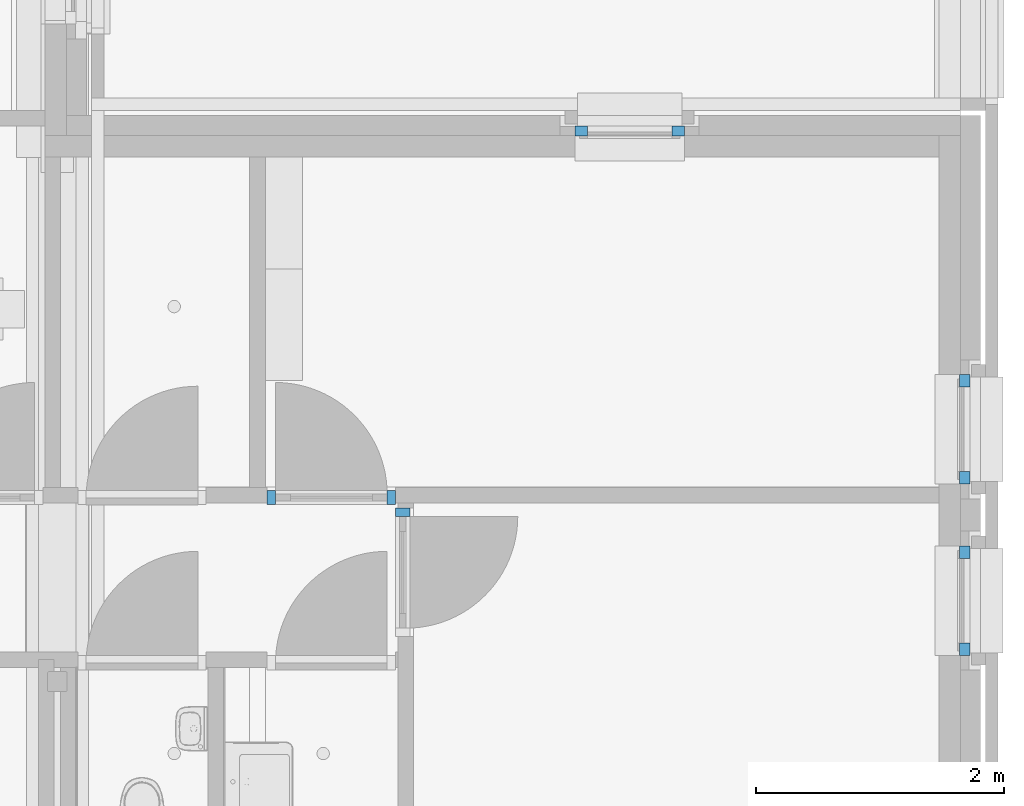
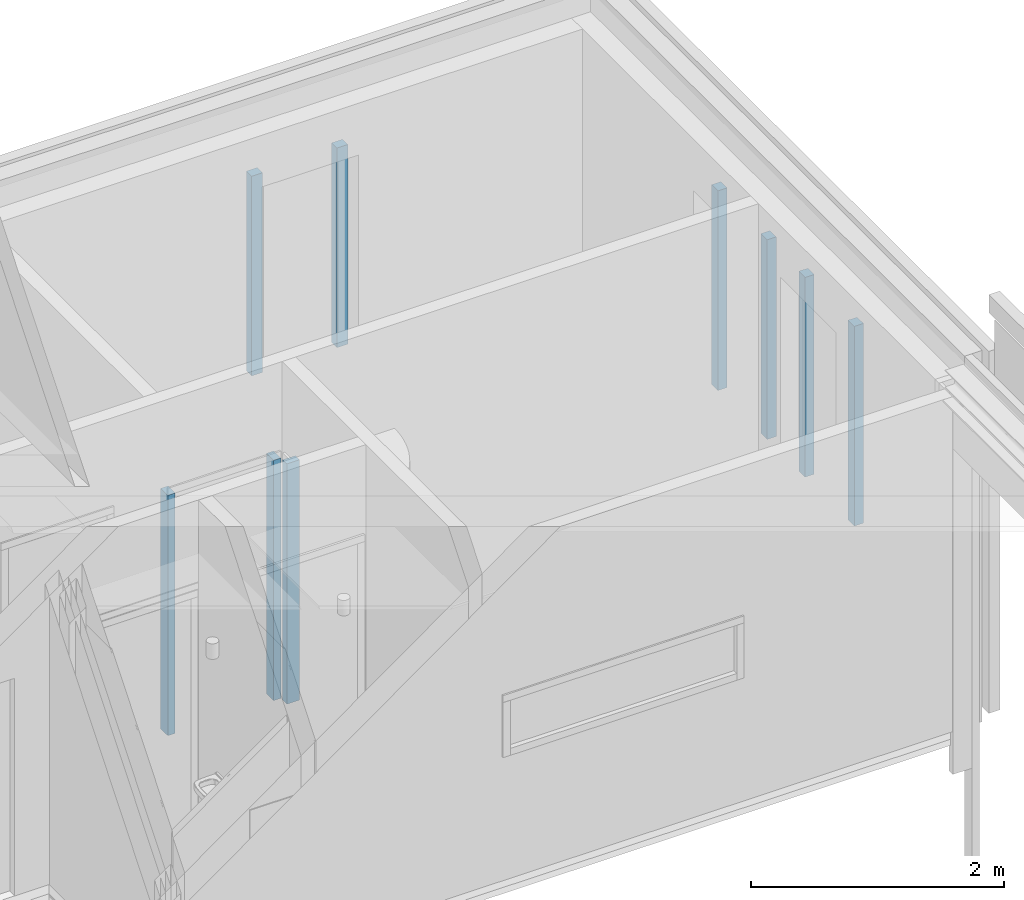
# One storey, part 23 of 128: 9 members, 5 elements without a shape of their own.
"""IFC2X3 building model written with IfcOpenShell, lengths in millimetres."""

from ifc_helpers import new_model, entity, si_unit, converted_unit, derived_unit, direction, frame, origin, origin_2d_with_axis, place, context, subcontext, project, spatial, rectangle, extrude, source, transform, mapped, material, type_object, type_shapes, element, aggregate, save


model = new_model("IFC2X3")

# Units and contexts
model_context = context("Model", 3, precision=0.01, world=origin(), true_north=direction((6.123031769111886e-17, 1.0)))
body_context = subcontext(model_context, "Body", "Model", "MODEL_VIEW")
ifc_project = project(units=[si_unit("LENGTHUNIT", "METRE", prefix="MILLI"), si_unit("AREAUNIT", "SQUARE_METRE"), si_unit("VOLUMEUNIT", "CUBIC_METRE"), converted_unit("PLANEANGLEUNIT", "DEGREE", entity("IfcRatioMeasure", 0.017453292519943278), si_unit("PLANEANGLEUNIT", "RADIAN"), dimensions=[0, 0, 0, 0, 0, 0, 0]), si_unit("MASSUNIT", "GRAM", prefix="KILO"), derived_unit("MASSDENSITYUNIT", [(si_unit("MASSUNIT", "GRAM", prefix="KILO"), 1), (si_unit("LENGTHUNIT", "METRE"), -3)]), derived_unit("IONCONCENTRATIONUNIT", [(si_unit("MASSUNIT", "GRAM", prefix="KILO"), 1), (si_unit("LENGTHUNIT", "METRE"), -3)]), derived_unit("MOMENTOFINERTIAUNIT", [(si_unit("LENGTHUNIT", "METRE"), 4)]), si_unit("TIMEUNIT", "SECOND"), si_unit("FREQUENCYUNIT", "HERTZ"), si_unit("THERMODYNAMICTEMPERATUREUNIT", "DEGREE_CELSIUS"), derived_unit("THERMALTRANSMITTANCEUNIT", [(si_unit("MASSUNIT", "GRAM", prefix="KILO"), 1), (si_unit("THERMODYNAMICTEMPERATUREUNIT", "KELVIN"), -1), (si_unit("TIMEUNIT", "SECOND"), -3)]), derived_unit("THERMALCONDUCTANCEUNIT", [(si_unit("MASSUNIT", "GRAM", prefix="KILO"), 1), (si_unit("THERMODYNAMICTEMPERATUREUNIT", "KELVIN"), -1), (si_unit("TIMEUNIT", "SECOND"), -3), (si_unit("LENGTHUNIT", "METRE"), 1)]), derived_unit("VOLUMETRICFLOWRATEUNIT", [(si_unit("LENGTHUNIT", "METRE"), 3), (si_unit("TIMEUNIT", "SECOND"), -1)]), derived_unit("MASSFLOWRATEUNIT", [(si_unit("MASSUNIT", "GRAM", prefix="KILO"), 1), (si_unit("TIMEUNIT", "SECOND"), -1)]), derived_unit("ROTATIONALFREQUENCYUNIT", [(si_unit("TIMEUNIT", "SECOND"), -1)]), si_unit("ELECTRICCURRENTUNIT", "AMPERE"), si_unit("ELECTRICVOLTAGEUNIT", "VOLT"), si_unit("POWERUNIT", "WATT"), si_unit("FORCEUNIT", "NEWTON", prefix="KILO"), si_unit("ILLUMINANCEUNIT", "LUX"), si_unit("LUMINOUSFLUXUNIT", "LUMEN"), si_unit("LUMINOUSINTENSITYUNIT", "CANDELA"), derived_unit("USERDEFINED", [(si_unit("MASSUNIT", "GRAM", prefix="KILO"), -1), (si_unit("LENGTHUNIT", "METRE"), -2), (si_unit("TIMEUNIT", "SECOND"), 3), (si_unit("LUMINOUSFLUXUNIT", "LUMEN"), 1)]), derived_unit("USERDEFINED", [(si_unit("MASSUNIT", "GRAM", prefix="KILO"), 1), (si_unit("TIMEUNIT", "SECOND"), -3), (si_unit("LENGTHUNIT", "METRE"), 3), (si_unit("ELECTRICCURRENTUNIT", "AMPERE"), -2)]), derived_unit("SOUNDPOWERUNIT", [(si_unit("MASSUNIT", "GRAM", prefix="KILO"), 1), (si_unit("TIMEUNIT", "SECOND"), -3), (si_unit("LENGTHUNIT", "METRE"), 2)]), derived_unit("SOUNDPRESSUREUNIT", [(si_unit("MASSUNIT", "GRAM", prefix="KILO"), 1), (si_unit("LENGTHUNIT", "METRE"), -1), (si_unit("TIMEUNIT", "SECOND"), -2)]), derived_unit("LINEARVELOCITYUNIT", [(si_unit("LENGTHUNIT", "METRE"), 1), (si_unit("TIMEUNIT", "SECOND"), -1)]), si_unit("PRESSUREUNIT", "PASCAL"), derived_unit("USERDEFINED", [(si_unit("MASSUNIT", "GRAM", prefix="KILO"), 1), (si_unit("LENGTHUNIT", "METRE"), -2), (si_unit("TIMEUNIT", "SECOND"), -2)]), derived_unit("LINEARFORCEUNIT", [(si_unit("MASSUNIT", "GRAM", prefix="KILO"), 1), (si_unit("TIMEUNIT", "SECOND"), -2)]), derived_unit("PLANARFORCEUNIT", [(si_unit("MASSUNIT", "GRAM", prefix="KILO"), 1), (si_unit("LENGTHUNIT", "METRE"), -1), (si_unit("TIMEUNIT", "SECOND"), -2)]), derived_unit("SPECIFICHEATCAPACITYUNIT", [(si_unit("THERMODYNAMICTEMPERATUREUNIT", "KELVIN"), -1), (si_unit("LENGTHUNIT", "METRE"), 2), (si_unit("TIMEUNIT", "SECOND"), -2)]), derived_unit("HEATINGVALUEUNIT", [(si_unit("LENGTHUNIT", "METRE"), 2), (si_unit("TIMEUNIT", "SECOND"), -2)]), derived_unit("VAPORPERMEABILITYUNIT", [(si_unit("LENGTHUNIT", "METRE"), -1), (si_unit("TIMEUNIT", "SECOND"), 1)]), derived_unit("DYNAMICVISCOSITYUNIT", [(si_unit("MASSUNIT", "GRAM", prefix="KILO"), 1), (si_unit("TIMEUNIT", "SECOND"), -1), (si_unit("LENGTHUNIT", "METRE"), -1)]), derived_unit("THERMALEXPANSIONCOEFFICIENTUNIT", [(si_unit("THERMODYNAMICTEMPERATUREUNIT", "KELVIN"), -1)]), derived_unit("MODULUSOFELASTICITYUNIT", [(si_unit("MASSUNIT", "GRAM", prefix="KILO"), 1), (si_unit("LENGTHUNIT", "METRE"), -1), (si_unit("TIMEUNIT", "SECOND"), -2)]), derived_unit("ISOTHERMALMOISTURECAPACITYUNIT", [(si_unit("LENGTHUNIT", "METRE"), 3), (si_unit("MASSUNIT", "GRAM", prefix="KILO"), -1)]), derived_unit("MOISTUREDIFFUSIVITYUNIT", [(si_unit("TIMEUNIT", "SECOND"), -1), (si_unit("LENGTHUNIT", "METRE"), 2)])], contexts=[model_context])

# Site, building, storey
site_placement = place(None, frame((0.0, 300.0, 0.0)))
site = spatial("IfcSite", under=ifc_project, at=site_placement, Name="<Kadastrale nummers>", CompositionType="ELEMENT")
building_placement = place(site_placement, origin())
building = spatial("IfcBuilding", under=site, at=building_placement, CompositionType="ELEMENT")
storey_placement = place(building_placement, frame((0.0, 0.0, 3560.0000331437)))
storey = spatial("IfcBuildingStorey", under=building, at=storey_placement, Name="01 eerste verdieping", CompositionType="ELEMENT", Elevation=3560.0000331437)

# Curtain wall, member
curtain_wall_type_1 = type_object("IfcCurtainWallType", Name="Curtain Wall:Merk H16", PredefinedType="NOTDEFINED")
curtain_wall_1_placement = place(storey_placement, frame((0.0, 0.0, -3560.0000331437)))
curtain_wall_1 = element("IfcCurtainWall", 1, at=curtain_wall_1_placement, inside=storey, type_object=curtain_wall_type_1, Name="Curtain Wall:Merk H16", ObjectType="Curtain Wall:Merk H16")
ifc_material_1 = material(Name="ISR_HPL")
member_type_1 = type_object("IfcMemberType", Name="Rectangular Mullion:31_CWM_067x114", PredefinedType="MULLION", material=ifc_material_1)
shared_shape_1 = source(origin(), body_context, "Body", "SweptSolid", [
    extrude(rectangle(XDim=113.99999999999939, YDim=67.0, at=origin_2d_with_axis()), frame((-33.5, 57.0, -2323.0), z_axis=(0.0, 0.0, 1.0), x_axis=(0.0, -1.0, 0.0)), (0.0, 0.0, 1.0), 2323.0),
])
type_shapes(member_type_1, [shared_shape_1])
member_1_placement = place(curtain_wall_1_placement, frame((43090.0, 43725.12500267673, 3650.0000350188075), z_axis=(0.0, 0.0, -1.0), x_axis=(-1.0, 0.0, 0.0)))
member_1 = element("IfcMember", 2, at=member_1_placement, type_object=member_type_1, material=ifc_material_1, Name="Rectangular Mullion:31_CWM_067x114", ObjectType="Rectangular Mullion:31_CWM_067x114", context=body_context, shape_type="MappedRepresentation", body=[
    mapped(shared_shape_1, transform((0.0, 0.0, 0.0), scale=1.0)),
])

curtain_wall_2_placement = place(storey_placement, frame((0.0, 0.0, -3560.0000331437)))
curtain_wall_2 = element("IfcCurtainWall", 3, at=curtain_wall_2_placement, inside=storey, type_object=curtain_wall_type_1, Name="Curtain Wall:Merk H16", ObjectType="Curtain Wall:Merk H16")
member_2_placement = place(curtain_wall_2_placement, frame((44125.0, 43697.125002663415, 3650.000035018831), z_axis=(0.0, 0.0, -1.0), x_axis=(0.0, 1.0, 0.0)))
member_2 = element("IfcMember", 4, at=member_2_placement, type_object=member_type_1, material=ifc_material_1, Name="Rectangular Mullion:31_CWM_067x114", ObjectType="Rectangular Mullion:31_CWM_067x114", context=body_context, shape_type="MappedRepresentation", body=[
    mapped(shared_shape_1, transform((0.0, 0.0, 0.0), scale=1.0)),
])
aggregate(curtain_wall_2, [member_2])

# Member
member_type_2 = type_object("IfcMemberType", Name="Rectangular Mullion:31_CWM_067x114", PredefinedType="MULLION", material=ifc_material_1)
shared_shape_2 = source(origin(), body_context, "Body", "SweptSolid", [
    extrude(rectangle(XDim=113.99999999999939, YDim=67.0, at=origin_2d_with_axis()), frame((-33.5, 57.0, -2323.0), z_axis=(0.0, 0.0, 1.0), x_axis=(0.0, -1.0, 0.0)), (0.0, 0.0, 1.0), 2323.0),
])
type_shapes(member_type_2, [shared_shape_2])
member_3_placement = place(curtain_wall_1_placement, frame((44124.0, 43725.12500267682, 5973.0000331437)))
member_3 = element("IfcMember", 5, at=member_3_placement, type_object=member_type_2, material=ifc_material_1, Name="Rectangular Mullion:31_CWM_067x114", ObjectType="Rectangular Mullion:31_CWM_067x114", context=body_context, shape_type="MappedRepresentation", body=[
    mapped(shared_shape_2, transform((0.0, 0.0, 0.0), scale=1.0)),
])

aggregate(curtain_wall_1, [member_1, member_3])

# Curtain wall, member
curtain_wall_type_2 = type_object("IfcCurtainWallType", Name="Curtain Wall:K_31", PredefinedType="NOTDEFINED")
curtain_wall_3_placement = place(storey_placement, frame((0.0, 0.0, -3560.0000331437)))
curtain_wall_3 = element("IfcCurtainWall", 6, at=curtain_wall_3_placement, inside=storey, type_object=curtain_wall_type_2, Name="Curtain Wall:K_31", ObjectType="Curtain Wall:K_31")
ifc_material_2 = material(Name="ISR_Kunststof_RAL7006")
member_type_3 = type_object("IfcMemberType", Name="Rectangular Mullion:100x83 Gealan Kubus", PredefinedType="MULLION", material=ifc_material_2)
shared_shape_3 = source(origin(), body_context, "Body", "SweptSolid", [
    extrude(rectangle(XDim=83.0, YDim=100.0, at=origin_2d_with_axis()), frame((-50.0, 41.5, -1929.9999649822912), z_axis=(0.0, 0.0, 1.0), x_axis=(0.0, -1.0, 0.0)), (0.0, 0.0, 1.0), 1929.9999649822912),
])
type_shapes(member_type_3, [shared_shape_3])
member_4_placement = place(curtain_wall_3_placement, frame((45570.0, 46693.0, 4460.000035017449), z_axis=(0.0, 0.0, -1.0), x_axis=(-1.0, 0.0, 0.0)))
member_4 = element("IfcMember", 7, at=member_4_placement, type_object=member_type_3, material=ifc_material_2, Name="Rectangular Mullion:100x83 Gealan Kubus", ObjectType="Rectangular Mullion:100x83 Gealan Kubus", context=body_context, shape_type="MappedRepresentation", body=[
    mapped(shared_shape_3, transform((0.0, 0.0, 0.0), scale=1.0)),
])

curtain_wall_4_placement = place(storey_placement, frame((0.0, 0.0, -3560.0000331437)))
curtain_wall_4 = element("IfcCurtainWall", 8, at=curtain_wall_4_placement, inside=storey, type_object=curtain_wall_type_2, Name="Curtain Wall:K_31", ObjectType="Curtain Wall:K_31")
member_5_placement = place(curtain_wall_4_placement, frame((48668.0, 43392.12500266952, 4460.000035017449), z_axis=(0.0, 0.0, -1.0), x_axis=(0.0, 1.0, 0.0)))
member_5 = element("IfcMember", 9, at=member_5_placement, type_object=member_type_3, material=ifc_material_2, Name="Rectangular Mullion:100x83 Gealan Kubus", ObjectType="Rectangular Mullion:100x83 Gealan Kubus", context=body_context, shape_type="MappedRepresentation", body=[
    mapped(shared_shape_3, transform((0.0, 0.0, 0.0), scale=1.0)),
])

curtain_wall_5_placement = place(storey_placement, frame((0.0, 0.0, -3560.0000331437)))
curtain_wall_5 = element("IfcCurtainWall", 10, at=curtain_wall_5_placement, inside=storey, type_object=curtain_wall_type_2, Name="Curtain Wall:K_31", ObjectType="Curtain Wall:K_31")
member_6_placement = place(curtain_wall_5_placement, frame((48668.0, 44772.125002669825, 4460.000035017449), z_axis=(0.0, 0.0, -1.0), x_axis=(0.0, 1.0, 0.0)))
member_6 = element("IfcMember", 11, at=member_6_placement, type_object=member_type_3, material=ifc_material_2, Name="Rectangular Mullion:100x83 Gealan Kubus", ObjectType="Rectangular Mullion:100x83 Gealan Kubus", context=body_context, shape_type="MappedRepresentation", body=[
    mapped(shared_shape_3, transform((0.0, 0.0, 0.0), scale=1.0)),
])

# Member
member_type_4 = type_object("IfcMemberType", Name="Rectangular Mullion:100x83 Gealan Kubus", PredefinedType="MULLION", material=ifc_material_2)
shared_shape_4 = source(origin(), body_context, "Body", "SweptSolid", [
    extrude(rectangle(XDim=83.0, YDim=100.0, at=origin_2d_with_axis()), frame((-50.0, 41.5, -1929.9999649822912), z_axis=(0.0, 0.0, 1.0), x_axis=(0.0, -1.0, 0.0)), (0.0, 0.0, 1.0), 1929.9999649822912),
])
type_shapes(member_type_4, [shared_shape_4])
member_7_placement = place(curtain_wall_3_placement, frame((46450.0, 46693.0, 6390.00003501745)))
member_7 = element("IfcMember", 12, at=member_7_placement, type_object=member_type_4, material=ifc_material_2, Name="Rectangular Mullion:100x83 Gealan Kubus", ObjectType="Rectangular Mullion:100x83 Gealan Kubus", context=body_context, shape_type="MappedRepresentation", body=[
    mapped(shared_shape_4, transform((0.0, 0.0, 0.0), scale=1.0)),
])

aggregate(curtain_wall_3, [member_4, member_7])

member_8_placement = place(curtain_wall_4_placement, frame((48668.0, 42512.12500266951, 6390.00003501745), z_axis=(0.0, 0.0, 1.0), x_axis=(0.0, -1.0, 0.0)))
member_8 = element("IfcMember", 13, at=member_8_placement, type_object=member_type_4, material=ifc_material_2, Name="Rectangular Mullion:100x83 Gealan Kubus", ObjectType="Rectangular Mullion:100x83 Gealan Kubus", context=body_context, shape_type="MappedRepresentation", body=[
    mapped(shared_shape_4, transform((0.0, 0.0, 0.0), scale=1.0)),
])

aggregate(curtain_wall_4, [member_5, member_8])

member_9_placement = place(curtain_wall_5_placement, frame((48668.0, 43892.12500266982, 6390.00003501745), z_axis=(0.0, 0.0, 1.0), x_axis=(0.0, -1.0, 0.0)))
member_9 = element("IfcMember", 14, at=member_9_placement, type_object=member_type_4, material=ifc_material_2, Name="Rectangular Mullion:100x83 Gealan Kubus", ObjectType="Rectangular Mullion:100x83 Gealan Kubus", context=body_context, shape_type="MappedRepresentation", body=[
    mapped(shared_shape_4, transform((0.0, 0.0, 0.0), scale=1.0)),
])

aggregate(curtain_wall_5, [member_6, member_9])

save(model, "model.ifc")
